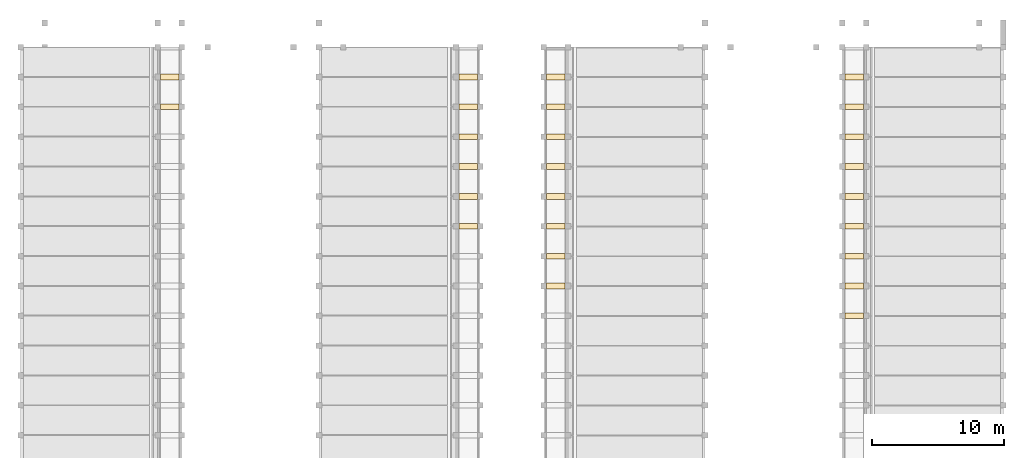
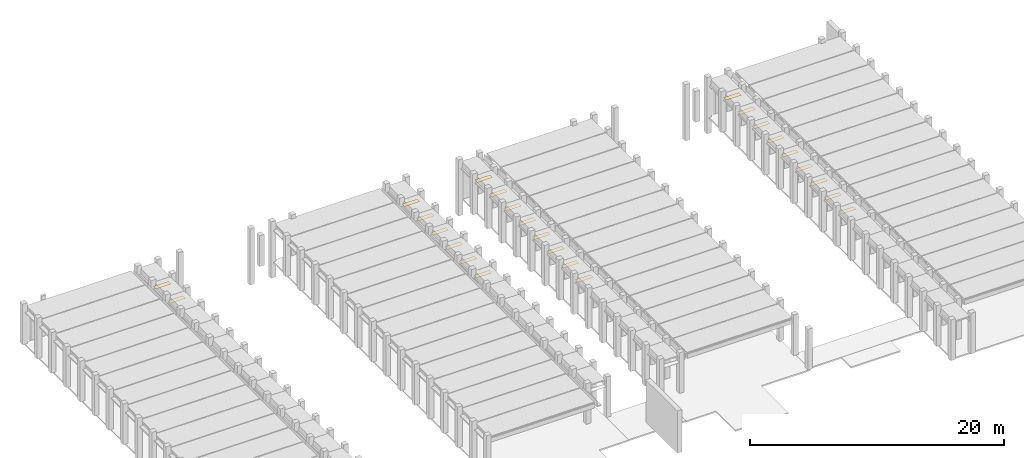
# One storey, part 21 of 21: 29 coverings.
"""IFC2X3 building model written with IfcOpenShell, lengths in millimetres."""

from ifc_helpers import new_model, entity, si_unit, converted_unit, derived_unit, direction, frame, origin, place, context, subcontext, project, spatial, face_set, surface_model, type_object, element, save


model = new_model("IFC2X3")

# Units and contexts
model_context = context("Model", 3, precision=0.01, world=origin(), true_north=direction((6.12303176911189e-17, 1.0)))
body_context = subcontext(model_context, "Body", "Model", "MODEL_VIEW")
ifc_project = project(units=[si_unit("LENGTHUNIT", "METRE", prefix="MILLI"), si_unit("AREAUNIT", "SQUARE_METRE"), si_unit("VOLUMEUNIT", "CUBIC_METRE"), converted_unit("PLANEANGLEUNIT", "DEGREE", entity("IfcRatioMeasure", 0.0174532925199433), si_unit("PLANEANGLEUNIT", "RADIAN"), dimensions=[0, 0, 0, 0, 0, 0, 0]), si_unit("MASSUNIT", "GRAM", prefix="KILO"), derived_unit("MASSDENSITYUNIT", [(si_unit("MASSUNIT", "GRAM", prefix="KILO"), 1), (si_unit("LENGTHUNIT", "METRE"), -3)]), derived_unit("MOMENTOFINERTIAUNIT", [(si_unit("LENGTHUNIT", "METRE"), 4)]), si_unit("TIMEUNIT", "SECOND"), si_unit("FREQUENCYUNIT", "HERTZ"), si_unit("THERMODYNAMICTEMPERATUREUNIT", "DEGREE_CELSIUS"), derived_unit("THERMALTRANSMITTANCEUNIT", [(si_unit("MASSUNIT", "GRAM", prefix="KILO"), 1), (si_unit("THERMODYNAMICTEMPERATUREUNIT", "KELVIN"), -1), (si_unit("TIMEUNIT", "SECOND"), -3)]), derived_unit("VOLUMETRICFLOWRATEUNIT", [(si_unit("LENGTHUNIT", "METRE"), 3), (si_unit("TIMEUNIT", "SECOND"), -1)]), si_unit("ELECTRICCURRENTUNIT", "AMPERE"), si_unit("ELECTRICVOLTAGEUNIT", "VOLT"), si_unit("POWERUNIT", "WATT"), si_unit("FORCEUNIT", "NEWTON", prefix="KILO"), si_unit("ILLUMINANCEUNIT", "LUX"), si_unit("LUMINOUSFLUXUNIT", "LUMEN"), si_unit("LUMINOUSINTENSITYUNIT", "CANDELA"), derived_unit("USERDEFINED", [(si_unit("MASSUNIT", "GRAM", prefix="KILO"), -1), (si_unit("LENGTHUNIT", "METRE"), -2), (si_unit("TIMEUNIT", "SECOND"), 3), (si_unit("LUMINOUSFLUXUNIT", "LUMEN"), 1)]), derived_unit("LINEARVELOCITYUNIT", [(si_unit("LENGTHUNIT", "METRE"), 1), (si_unit("TIMEUNIT", "SECOND"), -1)]), si_unit("PRESSUREUNIT", "PASCAL"), derived_unit("USERDEFINED", [(si_unit("LENGTHUNIT", "METRE"), -2), (si_unit("MASSUNIT", "GRAM", prefix="KILO"), 1), (si_unit("TIMEUNIT", "SECOND"), -2)]), derived_unit("LINEARFORCEUNIT", [(si_unit("MASSUNIT", "GRAM", prefix="KILO"), 1), (si_unit("LENGTHUNIT", "METRE"), 1), (si_unit("TIMEUNIT", "SECOND"), -2), (si_unit("LENGTHUNIT", "METRE"), -1)]), derived_unit("PLANARFORCEUNIT", [(si_unit("MASSUNIT", "GRAM", prefix="KILO"), 1), (si_unit("LENGTHUNIT", "METRE"), 1), (si_unit("TIMEUNIT", "SECOND"), -2), (si_unit("LENGTHUNIT", "METRE"), -2)])], contexts=[model_context])

# Site, building, storey
site_placement = place(None, frame((10627.5135316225, 21939.0796949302, 0.0)))
site = spatial("IfcSite", under=ifc_project, at=site_placement, Name="Default", CompositionType="ELEMENT")
building_placement = place(site_placement, origin())
building = spatial("IfcBuilding", under=site, at=building_placement, CompositionType="ELEMENT")
storey_placement = place(building_placement, frame((0.0, 0.0, 7320.0)))
storey = spatial("IfcBuildingStorey", under=building, at=storey_placement, Name="R+2", CompositionType="ELEMENT", Elevation=7320.0)

# Coverings
covering_type_1 = type_object("IfcCoveringType", Name="Basic Ceiling:Generic", PredefinedType="CEILING")
covering_1_placement = place(storey_placement, frame((22557.4864683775, 14005.9203050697, 2959.0)))
element("IfcCovering", 1, at=covering_1_placement, inside=storey, type_object=covering_type_1, Name="Basic Ceiling:Generic", ObjectType="Basic Ceiling:Generic", PredefinedType="CEILING", context=body_context, shape_type="SurfaceModel", body=[
    surface_model("IfcFaceBasedSurfaceModel", [(0.0, 430.0, 0.0), (0.0, 0.0, 0.0), (1400.0, 0.0, 0.0), (1400.0, 430.0, 0.0)], [face_set([[[0, 1, 2, 3]]])]),
])
covering_type_2 = type_object("IfcCoveringType", Name="Basic Ceiling:Generic", PredefinedType="CEILING")
covering_2_placement = place(storey_placement, frame((22557.4864683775, 11745.9203050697, 2959.0)))
element("IfcCovering", 2, at=covering_2_placement, inside=storey, type_object=covering_type_2, Name="Basic Ceiling:Generic", ObjectType="Basic Ceiling:Generic", PredefinedType="CEILING", context=body_context, shape_type="SurfaceModel", body=[
    surface_model("IfcFaceBasedSurfaceModel", [(0.0, 430.0, 0.0), (0.0, 0.0, 0.0), (1400.0, 0.0, 0.0), (1400.0, 430.0, 0.0)], [face_set([[[0, 1, 2, 3]]])]),
])
covering_type_3 = type_object("IfcCoveringType", Name="Basic Ceiling:Generic", PredefinedType="CEILING")
covering_3_placement = place(storey_placement, frame((22557.4864683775, 9485.92030506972, 2959.0)))
element("IfcCovering", 3, at=covering_3_placement, inside=storey, type_object=covering_type_3, Name="Basic Ceiling:Generic", ObjectType="Basic Ceiling:Generic", PredefinedType="CEILING", context=body_context, shape_type="SurfaceModel", body=[
    surface_model("IfcFaceBasedSurfaceModel", [(0.0, 430.0, 0.0), (0.0, 0.0, 0.0), (1400.0, 0.0, 0.0), (1400.0, 430.0, 0.0)], [face_set([[[0, 1, 2, 3]]])]),
])
covering_type_4 = type_object("IfcCoveringType", Name="Basic Ceiling:Generic", PredefinedType="CEILING")
covering_4_placement = place(storey_placement, frame((22557.4864683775, 7225.92030506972, 2959.0)))
element("IfcCovering", 4, at=covering_4_placement, inside=storey, type_object=covering_type_4, Name="Basic Ceiling:Generic", ObjectType="Basic Ceiling:Generic", PredefinedType="CEILING", context=body_context, shape_type="SurfaceModel", body=[
    surface_model("IfcFaceBasedSurfaceModel", [(0.0, 430.0, 0.0), (0.0, 0.0, 0.0), (1400.0, 0.0, 0.0), (1400.0, 430.0, 0.0)], [face_set([[[0, 1, 2, 3]]])]),
])
covering_type_5 = type_object("IfcCoveringType", Name="Basic Ceiling:Generic", PredefinedType="CEILING")
covering_5_placement = place(storey_placement, frame((22557.4864683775, 4965.92030506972, 2959.0)))
element("IfcCovering", 5, at=covering_5_placement, inside=storey, type_object=covering_type_5, Name="Basic Ceiling:Generic", ObjectType="Basic Ceiling:Generic", PredefinedType="CEILING", context=body_context, shape_type="SurfaceModel", body=[
    surface_model("IfcFaceBasedSurfaceModel", [(0.0, 430.0, 0.0), (0.0, 0.0, 0.0), (1400.0, 0.0, 0.0), (1400.0, 430.0, 0.0)], [face_set([[[0, 1, 2, 3]]])]),
])
covering_type_6 = type_object("IfcCoveringType", Name="Basic Ceiling:Generic", PredefinedType="CEILING")
covering_6_placement = place(storey_placement, frame((22557.4864683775, 2705.92030506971, 2959.0)))
element("IfcCovering", 6, at=covering_6_placement, inside=storey, type_object=covering_type_6, Name="Basic Ceiling:Generic", ObjectType="Basic Ceiling:Generic", PredefinedType="CEILING", context=body_context, shape_type="SurfaceModel", body=[
    surface_model("IfcFaceBasedSurfaceModel", [(0.0, 430.0, 0.0), (0.0, 0.0, 0.0), (1400.0, 0.0, 0.0), (1400.0, 430.0, 0.0)], [face_set([[[0, 1, 2, 3]]])]),
])
covering_type_7 = type_object("IfcCoveringType", Name="Basic Ceiling:Generic", PredefinedType="CEILING")
covering_7_placement = place(storey_placement, frame((22557.4864683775, 14005.9203050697, 2959.0)))
element("IfcCovering", 7, at=covering_7_placement, inside=storey, type_object=covering_type_7, Name="Basic Ceiling:Generic", ObjectType="Basic Ceiling:Generic", PredefinedType="CEILING", context=body_context, shape_type="SurfaceModel", body=[
    surface_model("IfcFaceBasedSurfaceModel", [(0.0, 431.696695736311, 0.0), (0.0, 0.0, 0.0), (1400.0, 0.0, 0.0), (1400.0, 431.696695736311, 0.0)], [face_set([[[0, 1, 2, 3]]])]),
])
covering_type_8 = type_object("IfcCoveringType", Name="Basic Ceiling:Generic", PredefinedType="CEILING")
covering_8_placement = place(storey_placement, frame((-32.5135316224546, 14005.9203050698, 2959.0)))
element("IfcCovering", 8, at=covering_8_placement, inside=storey, type_object=covering_type_8, Name="Basic Ceiling:Generic", ObjectType="Basic Ceiling:Generic", PredefinedType="CEILING", context=body_context, shape_type="SurfaceModel", body=[
    surface_model("IfcFaceBasedSurfaceModel", [(0.0, 430.0, 0.0), (0.0, 0.0, 0.0), (1400.0, 0.0, 0.0), (1400.0, 430.0, 0.0)], [face_set([[[0, 1, 2, 3]]])]),
])
covering_type_9 = type_object("IfcCoveringType", Name="Basic Ceiling:Generic", PredefinedType="CEILING")
covering_9_placement = place(storey_placement, frame((-32.5135316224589, 11745.9203050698, 2959.0)))
element("IfcCovering", 9, at=covering_9_placement, inside=storey, type_object=covering_type_9, Name="Basic Ceiling:Generic", ObjectType="Basic Ceiling:Generic", PredefinedType="CEILING", context=body_context, shape_type="SurfaceModel", body=[
    surface_model("IfcFaceBasedSurfaceModel", [(0.0, 430.0, 0.0), (0.0, 0.0, 0.0), (1400.0, 0.0, 0.0), (1400.0, 430.0, 0.0)], [face_set([[[0, 1, 2, 3]]])]),
])
covering_type_10 = type_object("IfcCoveringType", Name="Basic Ceiling:Generic", PredefinedType="CEILING")
covering_10_placement = place(storey_placement, frame((-32.5135316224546, 14005.9203050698, 2959.0)))
element("IfcCovering", 10, at=covering_10_placement, inside=storey, type_object=covering_type_10, Name="Basic Ceiling:Generic", ObjectType="Basic Ceiling:Generic", PredefinedType="CEILING", context=body_context, shape_type="SurfaceModel", body=[
    surface_model("IfcFaceBasedSurfaceModel", [(0.0, 431.696695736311, 0.0), (0.0, 0.0, 0.0), (1400.0, 0.0, 0.0), (1400.0, 431.696695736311, 0.0)], [face_set([[[0, 1, 2, 3]]])]),
])
covering_type_11 = type_object("IfcCoveringType", Name="Basic Ceiling:Generic", PredefinedType="CEILING")
covering_11_placement = place(storey_placement, frame((29197.4864683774, 14005.9203050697, 2959.0)))
element("IfcCovering", 11, at=covering_11_placement, inside=storey, type_object=covering_type_11, Name="Basic Ceiling:Generic", ObjectType="Basic Ceiling:Generic", PredefinedType="CEILING", context=body_context, shape_type="SurfaceModel", body=[
    surface_model("IfcFaceBasedSurfaceModel", [(1400.0, 430.0, 0.0), (0.0, 430.0, 0.0), (0.0, 0.0, 0.0), (1400.0, 0.0, 0.0)], [face_set([[[0, 1, 2, 3]]])]),
])
covering_type_12 = type_object("IfcCoveringType", Name="Basic Ceiling:Generic", PredefinedType="CEILING")
covering_12_placement = place(storey_placement, frame((29197.4864683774, 11745.9203050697, 2959.0)))
element("IfcCovering", 12, at=covering_12_placement, inside=storey, type_object=covering_type_12, Name="Basic Ceiling:Generic", ObjectType="Basic Ceiling:Generic", PredefinedType="CEILING", context=body_context, shape_type="SurfaceModel", body=[
    surface_model("IfcFaceBasedSurfaceModel", [(1400.0, 430.0, 0.0), (0.0, 430.0, 0.0), (0.0, 0.0, 0.0), (1400.0, 0.0, 0.0)], [face_set([[[0, 1, 2, 3]]])]),
])
covering_type_13 = type_object("IfcCoveringType", Name="Basic Ceiling:Generic", PredefinedType="CEILING")
covering_13_placement = place(storey_placement, frame((29197.4864683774, 9485.92030506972, 2959.0)))
element("IfcCovering", 13, at=covering_13_placement, inside=storey, type_object=covering_type_13, Name="Basic Ceiling:Generic", ObjectType="Basic Ceiling:Generic", PredefinedType="CEILING", context=body_context, shape_type="SurfaceModel", body=[
    surface_model("IfcFaceBasedSurfaceModel", [(1400.0, 430.0, 0.0), (0.0, 430.0, 0.0), (0.0, 0.0, 0.0), (1400.0, 0.0, 0.0)], [face_set([[[0, 1, 2, 3]]])]),
])
covering_type_14 = type_object("IfcCoveringType", Name="Basic Ceiling:Generic", PredefinedType="CEILING")
covering_14_placement = place(storey_placement, frame((29197.4864683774, 7225.92030506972, 2959.0)))
element("IfcCovering", 14, at=covering_14_placement, inside=storey, type_object=covering_type_14, Name="Basic Ceiling:Generic", ObjectType="Basic Ceiling:Generic", PredefinedType="CEILING", context=body_context, shape_type="SurfaceModel", body=[
    surface_model("IfcFaceBasedSurfaceModel", [(1400.0, 430.0, 0.0), (0.0, 430.0, 0.0), (0.0, 0.0, 0.0), (1400.0, 0.0, 0.0)], [face_set([[[0, 1, 2, 3]]])]),
])
covering_type_15 = type_object("IfcCoveringType", Name="Basic Ceiling:Generic", PredefinedType="CEILING")
covering_15_placement = place(storey_placement, frame((29197.4864683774, 4965.92030506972, 2959.0)))
element("IfcCovering", 15, at=covering_15_placement, inside=storey, type_object=covering_type_15, Name="Basic Ceiling:Generic", ObjectType="Basic Ceiling:Generic", PredefinedType="CEILING", context=body_context, shape_type="SurfaceModel", body=[
    surface_model("IfcFaceBasedSurfaceModel", [(1400.0, 430.0, 0.0), (0.0, 430.0, 0.0), (0.0, 0.0, 0.0), (1400.0, 0.0, 0.0)], [face_set([[[0, 1, 2, 3]]])]),
])
covering_type_16 = type_object("IfcCoveringType", Name="Basic Ceiling:Generic", PredefinedType="CEILING")
covering_16_placement = place(storey_placement, frame((29197.4864683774, 2705.92030506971, 2959.0)))
element("IfcCovering", 16, at=covering_16_placement, inside=storey, type_object=covering_type_16, Name="Basic Ceiling:Generic", ObjectType="Basic Ceiling:Generic", PredefinedType="CEILING", context=body_context, shape_type="SurfaceModel", body=[
    surface_model("IfcFaceBasedSurfaceModel", [(1400.0, 430.0, 0.0), (0.0, 430.0, 0.0), (0.0, 0.0, 0.0), (1400.0, 0.0, 0.0)], [face_set([[[0, 1, 2, 3]]])]),
])
covering_type_17 = type_object("IfcCoveringType", Name="Basic Ceiling:Generic", PredefinedType="CEILING")
covering_17_placement = place(storey_placement, frame((29197.4864683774, 445.920305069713, 2959.0)))
element("IfcCovering", 17, at=covering_17_placement, inside=storey, type_object=covering_type_17, Name="Basic Ceiling:Generic", ObjectType="Basic Ceiling:Generic", PredefinedType="CEILING", context=body_context, shape_type="SurfaceModel", body=[
    surface_model("IfcFaceBasedSurfaceModel", [(1400.0, 430.0, 0.0), (0.0, 430.0, 0.0), (0.0, 0.0, 0.0), (1400.0, 0.0, 0.0)], [face_set([[[0, 1, 2, 3]]])]),
])
covering_type_18 = type_object("IfcCoveringType", Name="Basic Ceiling:Generic", PredefinedType="CEILING")
covering_18_placement = place(storey_placement, frame((29197.4864683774, -1814.07969493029, 2959.0)))
element("IfcCovering", 18, at=covering_18_placement, inside=storey, type_object=covering_type_18, Name="Basic Ceiling:Generic", ObjectType="Basic Ceiling:Generic", PredefinedType="CEILING", context=body_context, shape_type="SurfaceModel", body=[
    surface_model("IfcFaceBasedSurfaceModel", [(1400.0, 430.0, 0.0), (0.0, 430.0, 0.0), (0.0, 0.0, 0.0), (1400.0, 0.0, 0.0)], [face_set([[[0, 1, 2, 3]]])]),
])
covering_type_19 = type_object("IfcCoveringType", Name="Basic Ceiling:Generic", PredefinedType="CEILING")
covering_19_placement = place(storey_placement, frame((29197.4864683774, 14005.9203050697, 2959.0)))
element("IfcCovering", 19, at=covering_19_placement, inside=storey, type_object=covering_type_19, Name="Basic Ceiling:Generic", ObjectType="Basic Ceiling:Generic", PredefinedType="CEILING", context=body_context, shape_type="SurfaceModel", body=[
    surface_model("IfcFaceBasedSurfaceModel", [(1400.0, 431.696695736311, 0.0), (0.0, 431.696695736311, 0.0), (0.0, 0.0, 0.0), (1400.0, 0.0, 0.0)], [face_set([[[0, 1, 2, 3]]])]),
])
covering_type_20 = type_object("IfcCoveringType", Name="Basic Ceiling:Generic", PredefinedType="CEILING")
covering_20_placement = place(storey_placement, frame((51787.4864683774, 14005.9203050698, 2959.0)))
element("IfcCovering", 20, at=covering_20_placement, inside=storey, type_object=covering_type_20, Name="Basic Ceiling:Generic", ObjectType="Basic Ceiling:Generic", PredefinedType="CEILING", context=body_context, shape_type="SurfaceModel", body=[
    surface_model("IfcFaceBasedSurfaceModel", [(1400.0, 430.0, 0.0), (0.0, 430.0, 0.0), (0.0, 0.0, 0.0), (1400.0, 0.0, 0.0)], [face_set([[[0, 1, 2, 3]]])]),
])
covering_type_21 = type_object("IfcCoveringType", Name="Basic Ceiling:Generic", PredefinedType="CEILING")
covering_21_placement = place(storey_placement, frame((51787.4864683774, 11745.9203050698, 2959.0)))
element("IfcCovering", 21, at=covering_21_placement, inside=storey, type_object=covering_type_21, Name="Basic Ceiling:Generic", ObjectType="Basic Ceiling:Generic", PredefinedType="CEILING", context=body_context, shape_type="SurfaceModel", body=[
    surface_model("IfcFaceBasedSurfaceModel", [(1400.0, 430.0, 0.0), (0.0, 430.0, 0.0), (0.0, 0.0, 0.0), (1400.0, 0.0, 0.0)], [face_set([[[0, 1, 2, 3]]])]),
])
covering_type_22 = type_object("IfcCoveringType", Name="Basic Ceiling:Generic", PredefinedType="CEILING")
covering_22_placement = place(storey_placement, frame((51787.4864683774, 9485.92030506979, 2959.0)))
element("IfcCovering", 22, at=covering_22_placement, inside=storey, type_object=covering_type_22, Name="Basic Ceiling:Generic", ObjectType="Basic Ceiling:Generic", PredefinedType="CEILING", context=body_context, shape_type="SurfaceModel", body=[
    surface_model("IfcFaceBasedSurfaceModel", [(1400.0, 430.0, 0.0), (0.0, 430.0, 0.0), (0.0, 0.0, 0.0), (1400.0, 0.0, 0.0)], [face_set([[[0, 1, 2, 3]]])]),
])
covering_type_23 = type_object("IfcCoveringType", Name="Basic Ceiling:Generic", PredefinedType="CEILING")
covering_23_placement = place(storey_placement, frame((51787.4864683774, 7225.92030506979, 2959.0)))
element("IfcCovering", 23, at=covering_23_placement, inside=storey, type_object=covering_type_23, Name="Basic Ceiling:Generic", ObjectType="Basic Ceiling:Generic", PredefinedType="CEILING", context=body_context, shape_type="SurfaceModel", body=[
    surface_model("IfcFaceBasedSurfaceModel", [(1400.0, 430.0, 0.0), (0.0, 430.0, 0.0), (0.0, 0.0, 0.0), (1400.0, 0.0, 0.0)], [face_set([[[0, 1, 2, 3]]])]),
])
covering_type_24 = type_object("IfcCoveringType", Name="Basic Ceiling:Generic", PredefinedType="CEILING")
covering_24_placement = place(storey_placement, frame((51787.4864683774, 4965.92030506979, 2959.0)))
element("IfcCovering", 24, at=covering_24_placement, inside=storey, type_object=covering_type_24, Name="Basic Ceiling:Generic", ObjectType="Basic Ceiling:Generic", PredefinedType="CEILING", context=body_context, shape_type="SurfaceModel", body=[
    surface_model("IfcFaceBasedSurfaceModel", [(1400.0, 430.0, 0.0), (0.0, 430.0, 0.0), (0.0, 0.0, 0.0), (1400.0, 0.0, 0.0)], [face_set([[[0, 1, 2, 3]]])]),
])
covering_type_25 = type_object("IfcCoveringType", Name="Basic Ceiling:Generic", PredefinedType="CEILING")
covering_25_placement = place(storey_placement, frame((51787.4864683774, 2705.92030506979, 2959.0)))
element("IfcCovering", 25, at=covering_25_placement, inside=storey, type_object=covering_type_25, Name="Basic Ceiling:Generic", ObjectType="Basic Ceiling:Generic", PredefinedType="CEILING", context=body_context, shape_type="SurfaceModel", body=[
    surface_model("IfcFaceBasedSurfaceModel", [(1400.0, 430.0, 0.0), (0.0, 430.0, 0.0), (0.0, 0.0, 0.0), (1400.0, 0.0, 0.0)], [face_set([[[0, 1, 2, 3]]])]),
])
covering_type_26 = type_object("IfcCoveringType", Name="Basic Ceiling:Generic", PredefinedType="CEILING")
covering_26_placement = place(storey_placement, frame((51787.4864683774, 445.920305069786, 2959.0)))
element("IfcCovering", 26, at=covering_26_placement, inside=storey, type_object=covering_type_26, Name="Basic Ceiling:Generic", ObjectType="Basic Ceiling:Generic", PredefinedType="CEILING", context=body_context, shape_type="SurfaceModel", body=[
    surface_model("IfcFaceBasedSurfaceModel", [(1400.0, 430.0, 0.0), (0.0, 430.0, 0.0), (0.0, 0.0, 0.0), (1400.0, 0.0, 0.0)], [face_set([[[0, 1, 2, 3]]])]),
])
covering_type_27 = type_object("IfcCoveringType", Name="Basic Ceiling:Generic", PredefinedType="CEILING")
covering_27_placement = place(storey_placement, frame((51787.4864683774, -1814.07969493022, 2959.0)))
element("IfcCovering", 27, at=covering_27_placement, inside=storey, type_object=covering_type_27, Name="Basic Ceiling:Generic", ObjectType="Basic Ceiling:Generic", PredefinedType="CEILING", context=body_context, shape_type="SurfaceModel", body=[
    surface_model("IfcFaceBasedSurfaceModel", [(1400.0, 430.0, 0.0), (0.0, 430.0, 0.0), (0.0, 0.0, 0.0), (1400.0, 0.0, 0.0)], [face_set([[[0, 1, 2, 3]]])]),
])
covering_type_28 = type_object("IfcCoveringType", Name="Basic Ceiling:Generic", PredefinedType="CEILING")
covering_28_placement = place(storey_placement, frame((51787.4864683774, -4074.07969493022, 2959.0)))
element("IfcCovering", 28, at=covering_28_placement, inside=storey, type_object=covering_type_28, Name="Basic Ceiling:Generic", ObjectType="Basic Ceiling:Generic", PredefinedType="CEILING", context=body_context, shape_type="SurfaceModel", body=[
    surface_model("IfcFaceBasedSurfaceModel", [(1400.0, 430.0, 0.0), (0.0, 430.0, 0.0), (0.0, 0.0, 0.0), (1400.0, 0.0, 0.0)], [face_set([[[0, 1, 2, 3]]])]),
])
covering_type_29 = type_object("IfcCoveringType", Name="Basic Ceiling:Generic", PredefinedType="CEILING")
covering_29_placement = place(storey_placement, frame((51787.4864683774, 14005.9203050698, 2959.0)))
element("IfcCovering", 29, at=covering_29_placement, inside=storey, type_object=covering_type_29, Name="Basic Ceiling:Generic", ObjectType="Basic Ceiling:Generic", PredefinedType="CEILING", context=body_context, shape_type="SurfaceModel", body=[
    surface_model("IfcFaceBasedSurfaceModel", [(1400.0, 431.696695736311, 0.0), (0.0, 431.696695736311, 0.0), (0.0, 0.0, 0.0), (1400.0, 0.0, 0.0)], [face_set([[[0, 1, 2, 3]]])]),
])

save(model, "model.ifc")
